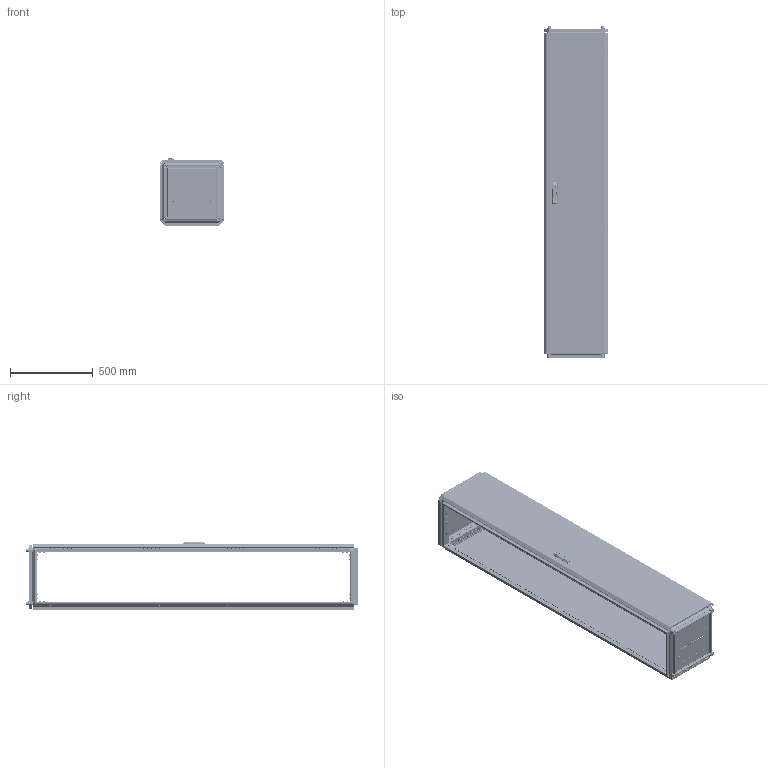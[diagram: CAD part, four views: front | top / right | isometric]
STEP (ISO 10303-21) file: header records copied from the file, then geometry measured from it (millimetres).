
FILE_DESCRIPTION (( 'STEP AP203' ), '1' );
FILE_NAME ('MA1.000.040420.10.00 AleSta2044 Øêàô AleSta 400õ400õ2000.STEP', '2024-08-23T08:21:30', ( '' ), ( '' ), 'SwSTEP 2.0', 'SolidWorks 2021', '' );
FILE_SCHEMA (( 'CONFIG_CONTROL_DESIGN' ));
Length unit declared in the file: millimetre
Products named in the file (49): MA1.101.060620.10.01 Ïîëîòíî êðûøè 600õ600_400å400; MA1.100.060620.00.01 Ñîåäèíèòåëü óãëîâîé_00; òÿãà_lg001-2.STEP_‚=2000; Øïèëüêà Ì6õ12_˜¯¨«ìª  Œ6å16; Âèíò_ðåçüáîâûäàâëèâàþùèé_Ì5õ12_DIN 7500E_00; MA1.200.060620.31.01 Ïîëîòíî äâåðè ñïëîøíîé 2000õ600_2000å400; MA1.101.060620.20.01 Ïîëîòíî íèæíåé ïàíåëè 600õ600_400å400; MA1.101.060620.00.02 Ïðîôèëü ïîïåðå÷íûé ñâàðíîé_00 L=298 (˜=400); MA1.200.060620.10.00 AleSta-PR206  Ïàíåëü çàäíÿÿ, äëÿ øêàôîâ ALESTA, 2000 x 600_2000å400; Øàéáà ñòîïîðíàÿ ñ íàðóæíûìè çóáöàìè SCHNORR, òèï VS öèíêîâûå õëîïüÿ Ì6 O6,4 ART 88121_Œ6; Îñü ïåòëè 4õ52_‚¨­â A.M4x0,5x40 ƒŽ‘’ 11644-75; MA1.200.060620.11.00 Ïàíåëü çàäíÿÿ, äëÿ øêàôîâ AleSta, 2000x600_2000å400; MS463-2-3(1); Áîëò øåñòèãðàííûé Ì5õ12 DIN 933, êëàññ ïðî÷íîñòè 8.8, îöèíêîâàííàÿ ñòàëü; MA1.200.060620.31.05 Óãëîâîé óïîð äâåðíîé òÿãè; Âèíò_ðåçüáîâûäàâëèâàþùèé_Ì5õ12_DIN 7500E_Œ5å12; MA1.101.060620.20.00 Íèæíÿÿ ïàíåëü 600õ600_400å400; Øïèëüêà Ì6õ12_˜¯¨«ìª  Œ6å20; ﾇﾀﾊﾋﾅﾏﾊﾀ ﾃﾀﾅﾗﾍﾀﾟ ﾘﾅﾑﾒﾈﾃﾐﾀﾍﾍﾀﾟ ﾑ ﾓﾌﾅﾍﾜﾘﾅﾍﾍﾛﾌ ﾁﾎﾐﾒﾎﾌ M4 X 11 (0.5-2.5 ﾌﾌ) HEX U-S ﾖﾈﾍﾊ; Øïèëüêà Ì6õ12_˜¯¨«ìª  Œ6å12; ﾘ琺矜 01.019 ﾃﾎﾑﾒ11371-78_12; 諘蜱齁罻 022 瀁錒瀔隮; Ãàéêà ñàìîêîíòðÿùàÿñÿ ñ íåéëîíîâîé âñòàâêîé Ì6 DIN 985, êëàññ ïðî÷íîñòè 8, îöèíêîâàííàÿ ñòàëü_Œ5; MA1.102.060620.00.01 Ïðîôèëü âåðòèêàëüíûé ñâàðíîé_04 L=1898 (‚=2000); MA1.200.060620.31.00 Äâåðü ñïëîøíàÿ äëÿ øêàôîâ ALESTA ÂõØ 2000õ600_2000å400; MA1.101.060620.10.00 Êðûøà 600x600_400å400; MA1.101.060620.00.00 AleSta-RB66 Êîìïëåêò êðûøà è îñíîâàíèå_400å400; Íàâåñêà íà êîðïóñ ïîä êëåïêó; Ïðîáêà ïëàñòèêîâàÿ óíèâåðñàëüíàÿ ïîä îòâåðñòèå 4,5 ìì, ñåðèÿ ST, öâåò áåñöâåòíûé – ST4,5; Âèíò ñàìîíàðåçàþùèé ñ ïîòàéíîé ãîëîâêîé Ì5x14 DIN 7500 M TORX, êëàññ ïðî÷íîñòè 8.8, îöèíêîâàííàÿ ñòàëü_Œ5å12; Âèíò ñàìîíàðåçàþùèé ñ ïîòàéíîé ãîëîâêîé Ì5x14 DIN 7500 M TORX, êëàññ ïðî÷íîñòè 8.8, îöèíêîâàííàÿ ñòàëü_Œ5å14; ﾘ琺矜 65ﾃ 019 ﾃﾎﾑﾒ 6402-70_12; êðåïëåíèå_êðóãëîé_òÿãè_RG1020-1.stp; MA1.200.060620.31.02 Ðåéêà íà äâåðü âåðòèêàëüíàÿ Â = 2000_‚ =2000; MA1.101.060620.20.02 Çàêðûòèå íèæíåé ïàíåëè 600õ600_400å400; MA1.200.060620.30.00 AleSta-D20M600 Äâåðü ñïëîøíàÿ äëÿ øêàôîâ ALESTA ÂõØ 2000õ600_2000å400; Ïåòëÿ íà äâåðü ï-îáðàçíàÿ; MA1.200.060620.31.04 ðèãåëü çàìêà äâåðè; Âèíò ñ âí. øåñòèãðàííèêîì M12 DIN912_•30; Ãàéêà ñàìîêîíòðÿùàÿñÿ ñ íåéëîíîâîé âñòàâêîé Ì6 DIN 985, êëàññ ïðî÷íîñòè 8, îöèíêîâàííàÿ ñòàëü_Œ6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
Assembly tree (337 placements, depth 4):
  Ïðîáêà ïëàñòèêîâàÿ óíèâåðñàëüíàÿ ïîä îòâåðñòèå 4,5 ìì, ñåðèÿ ST, öâåò áåñöâåòíûé – ST4,5
  MA1.000.040420.10.00 AleSta2044 Øêàô AleSta 400õ400õ2000
    MA1.101.060620.00.00 AleSta-RB66 Êîìïëåêò êðûøà è îñíîâàíèå_400å400
      MA1.101.060620.00.02 Ïðîôèëü ïîïåðå÷íûé ñâàðíîé_00 L=298 (˜=400)  x8
      MA1.101.060620.10.00 Êðûøà 600x600_400å400
        MA1.101.060620.10.01 Ïîëîòíî êðûøè 600õ600_400å400
        Øïèëüêà Ì6õ12_˜¯¨«ìª  Œ6å12  x4
        Óïëîòíèòåëü ïàíåëè íèæíåé_400å400
      MA1.101.060620.20.00 Íèæíÿÿ ïàíåëü 600õ600_400å400
        MA1.101.060620.20.01 Ïîëîòíî íèæíåé ïàíåëè 600õ600_400å400
        ﾇﾀﾊﾋﾅﾏﾊﾀ ﾃﾀﾅﾗﾍﾀﾟ ﾘﾅﾑﾒﾈﾃﾐﾀﾍﾍﾀﾟ ﾑ ﾓﾌﾅﾍﾜﾘﾅﾍﾍﾛﾌ ﾁﾎﾐﾒﾎﾌ M4 X 11 (0.5-2.5 ﾌﾌ) HEX U-S ﾖﾈﾍﾊ  x4
        MA1.101.060620.20.02 Çàêðûòèå íèæíåé ïàíåëè 600õ600_400å400  x2
        7380-2 ISO Âèíòû ñ ïîëóêðóãëîé ãîëîâêîé ñ ôëàíöåì ñ âíóòðåííèì øåñòèãðàííèêîì Ì4õ10  x4
      Âèíò_ðåçüáîâûäàâëèâàþùèé_Ì5õ12_DIN 7500E_Œ5å12  x8
      MA1.100.060620.00.01 Ñîåäèíèòåëü óãëîâîé_00  x8
      Âèíò ñ âí. øåñòèãðàííèêîì M12 DIN912_•30  x4
      Âèíò ðåçüáîâûäàâëèâàþùèé Ì6õ12 DIN 7500E_Œ6å10  x96
      ﾘ琺矜 01.019 ﾃﾎﾑﾒ11371-78_12  x4
      ﾘ琺矜 65ﾃ 019 ﾃﾎﾑﾒ 6402-70_12  x4
      Øàéáà ñòîïîðíàÿ ñ íàðóæíûìè çóáöàìè SCHNORR, òèï VS öèíêîâûå õëîïüÿ Ì6 O6,4 ART 88121_Œ6  x80
    MA1.102.060620.00.00 AleSta-VG2000 Ñòîéêè âåðòèêàëüíûå, Â=2000ìì  (4øò)_400å400
      MA1.102.060620.00.01 Ïðîôèëü âåðòèêàëüíûé ñâàðíîé_04 L=1898 (‚=2000)  x4
    MA1.200.060620.10.00 AleSta-PR206  Ïàíåëü çàäíÿÿ, äëÿ øêàôîâ ALESTA, 2000 x 600_2000å400
      MA1.200.060620.11.00 Ïàíåëü çàäíÿÿ, äëÿ øêàôîâ AleSta, 2000x600_2000å400
        MA1.200.060620.11.01 Ïîëîòíî çàäíåé ïàíåëè 2000õ600_2000å400
        Óïëîòíèòåëü ïàíåëè íèæíåé_  ‚=2000
        Øïèëüêà Ì6õ12_˜¯¨«ìª  Œ6å12  x4
      Âèíò ñàìîíàðåçàþùèé ñ ïîòàéíîé ãîëîâêîé Ì5x14 DIN 7500 M TORX, êëàññ ïðî÷íîñòè 8.8, îöèíêîâàííàÿ ñòàëü_Œ5å14  x8
    MA1.200.060620.30.00 AleSta-D20M600 Äâåðü ñïëîøíàÿ äëÿ øêàôîâ ALESTA ÂõØ 2000õ600_2000å400
      MA1.200.060620.31.00 Äâåðü ñïëîøíàÿ äëÿ øêàôîâ ALESTA ÂõØ 2000õ600_2000å400
        MA1.200.060620.31.01 Ïîëîòíî äâåðè ñïëîøíîé 2000õ600_2000å400
        Óïëîòíèòåëü ïàíåëè íèæíåé_  ‚=2000
        Øïèëüêà Ì6õ12_˜¯¨«ìª  Œ6å20  x16
        Øïèëüêà Ì6õ12_˜¯¨«ìª  Œ6å16  x4
        Ïåòëÿ íà äâåðü ï-îáðàçíàÿ  x4
      MA1.200.060620.31.03 Ðåéêà íà äâåðü ãîðèçîíòàëüíàÿ Ø = 600_˜=400  x2
      諘蜱齁罻 022 瀁錒瀔隮  x4
      MA1.200.060620.31.02 Ðåéêà íà äâåðü âåðòèêàëüíàÿ Â = 2000_‚ =2000  x2
      äåðæàòåëü_êðóãëîé_òÿãèRG002-RG1010-2-i-RG1010-3-.stp  x2
      òÿãà_lg001-2.STEP_‚=2000  x2
      êðåïëåíèå_êðóãëîé_òÿãè_RG1020-1.stp  x2
      MS463-2-3(1)
      Ãàéêà ñàìîêîíòðÿùàÿñÿ ñ íåéëîíîâîé âñòàâêîé Ì6 DIN 985, êëàññ ïðî÷íîñòè 8, îöèíêîâàííàÿ ñòàëü_Œ6  x16
      Ãàéêà ñàìîêîíòðÿùàÿñÿ ñ íåéëîíîâîé âñòàâêîé Ì6 DIN 985, êëàññ ïðî÷íîñòè 8, îöèíêîâàííàÿ ñòàëü_Œ5  x2
      Áîëò øåñòèãðàííûé Ì5õ12 DIN 933, êëàññ ïðî÷íîñòè 8.8, îöèíêîâàííàÿ ñòàëü  x2
      MA1.200.060620.31.04 ðèãåëü çàìêà äâåðè
      MA1.200.060620.31.05 Óãëîâîé óïîð äâåðíîé òÿãè  x2
      Âèíò_ðåçüáîâûäàâëèâàþùèé_Ì5õ12_DIN 7500E_00  x2
      Íàâåñêà íà êîðïóñ ïîä êëåïêó  x4
      Îñü ïåòëè 4õ52_‚¨­â A.M4x0,5x40 ƒŽ‘’ 11644-75  x4
      Âèíò ñàìîíàðåçàþùèé ñ ïîòàéíîé ãîëîâêîé Ì5x14 DIN 7500 M TORX, êëàññ ïðî÷íîñòè 8.8, îöèíêîâàííàÿ ñòàëü_Œ5å12  x8
Bounding box: 392 x 2010.9 x 416.8 mm (x, y, z)
Volume: 7195501 mm3; surface area: 8592395.2 mm2
Topology: 364 solids, 378 shells, 23019 faces, 59094 edges, 36904 vertices
Faces by surface type: plane 13737, cylinder 6589, bspline 921, cone 845, torus 829, sphere 98
Entity records: 235469 total; most frequent: CARTESIAN_POINT 77619, ORIENTED_EDGE 30078, DIRECTION 29538, EDGE_CURVE 15056, AXIS2_PLACEMENT_3D 10188, VERTEX_POINT 9377, LINE 9162, VECTOR 9162
